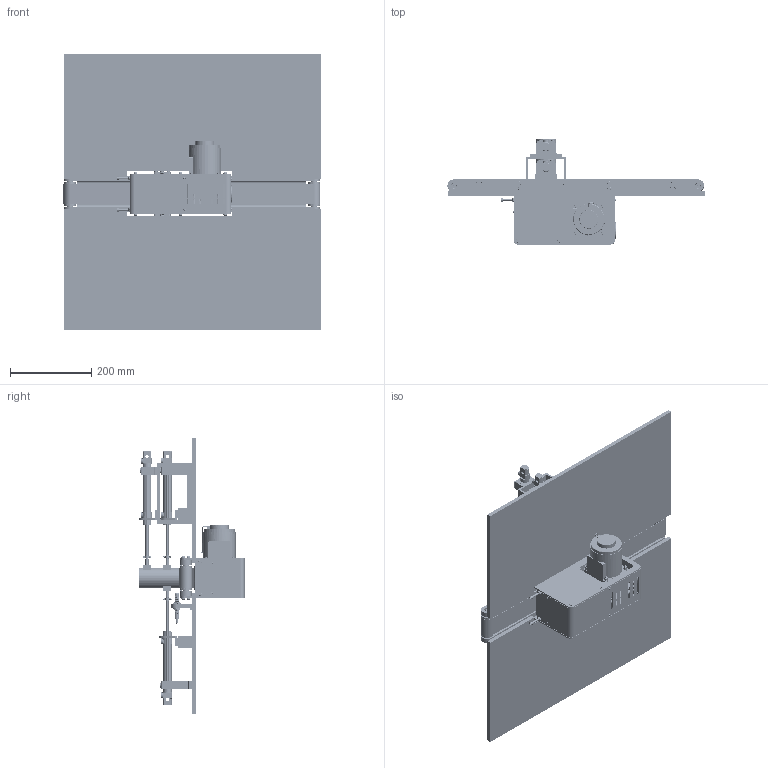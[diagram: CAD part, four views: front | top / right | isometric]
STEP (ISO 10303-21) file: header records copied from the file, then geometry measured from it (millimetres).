
FILE_DESCRIPTION(/* description */ (''),/* implementation_level */ '2;1');
FILE_NAME(/* name */ 'Assieme_ETICHETTATURA.stp',/* time_stamp */ '2024-11-26T21:19:47+01:00',/* author */ ('R5800u'),/* organization */ (''),/* preprocessor_version */ 'ST-DEVELOPER v20',/* originating_system */ 'Autodesk Inventor 2025',/* authorisation */ '');
FILE_SCHEMA (('AUTOMOTIVE_DESIGN { 1 0 10303 214 3 1 1 }'));
Products named in the file (52): Assieme_nastro; SVKN-50-600-25-TA220-SCM-12_5-H-C; SVKN-50-600-25_l; SVKN-50-600-25-H_b; SVKN-50-25-TA220-SCM-12_5-C_mc; SVKN25-TA220-SCM-12_5-C-1; CVS_bolt5-65; MOTOR25_w; MOTOR25_n; CVS__Nut-M5; piano_appoggio_nastro; 1103200080CP/0-0-0-A-0-0; appoggio_cilindro_magazzino; pezzo; piano_lavoro_01; supporto_cilindro_laterale; premi_pezzo_MIR; supporto_cilindro_etichettatura; etichetta_pezzo; LJ12A3-4-Z/AX (Prossimità) (Asse Z); Bullone; Rondella; Parte6; 1103200080CP_0-0-0-A-0-0_MIR1; ISO_6432_TP_DI20-110-HF_MIR1; ISO_6432_TP_DI20-110-80-BR_MIR1; ISO_6432_TP_DI20-110-HR_MIR1; ISO_6432_TP_DI20-110-PR_MIR1; ISO_6432_TP_DI20-11080-R_MIR1; W0950200001-3_0_MIR1; ISO_6432_TP_DI20-110-PF_MIR1; anello_stelo_MIR; barra_circolare_6mm_MIR; appoggio_cilindro_magazzino_MIR1; supporto_cilindro_laterale_MIR1; premi_pezzo_MIR_MIR; blocco_sensore; 1103200080CP/0-0-0-A-0-0_1; ISO_6432_TP_DI20-110-HF; ISO_6432_TP_DI20-110-80-BR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
Assembly tree (109 placements, depth 3):
  Assieme_nastro
    SVKN-50-600-25-TA220-SCM-12_5-H-C
      SVKN-50-600-25_l
      SVKN-50-600-25-H_b
      SVKN-50-25-TA220-SCM-12_5-C_mc
      SVKN25-TA220-SCM-12_5-C-1
      CVS_bolt5-65  x4
      MOTOR25_w  x4
      MOTOR25_n  x4
      CVS__Nut-M5  x16
    piano_appoggio_nastro
    1103200080CP/0-0-0-A-0-0
      ISO_6432_TP_DI20-110-HF
      ISO_6432_TP_DI20-110-80-BR
      ISO_6432_TP_DI20-110-HR
      ISO_6432_TP_DI20-110-PR
      ISO_6432_TP_DI20-11080-R
      W0950200001-3_0
      ISO_6432_TP_DI20-110-PF
      anello_stelo
      barra_circolare_6mm  x2
      Bush GB/T 18324 C 6 X 8 X 6  x2
      AS 1427 - M2,5 x 8  x2
      AS 1112 - M2,5  Tipo 5  x2
    appoggio_cilindro_magazzino
    pezzo
    piano_lavoro_01
    supporto_cilindro_laterale
    premi_pezzo_MIR
    supporto_cilindro_etichettatura
    etichetta_pezzo
    LJ12A3-4-Z/AX (Prossimità) (Asse Z)
      Bullone  x2
      Rondella  x2
      Parte6
    AS 1420 - 1973 - M5 x 12  x6
    1103200080CP_0-0-0-A-0-0_MIR1
      ISO_6432_TP_DI20-110-HF_MIR1
      ISO_6432_TP_DI20-110-80-BR_MIR1
      ISO_6432_TP_DI20-110-HR_MIR1
      ISO_6432_TP_DI20-110-PR_MIR1
      ISO_6432_TP_DI20-11080-R_MIR1
      W0950200001-3_0_MIR1
      ISO_6432_TP_DI20-110-PF_MIR1
      anello_stelo_MIR
      barra_circolare_6mm_MIR  x2
      Bush GB/T 18324 C 6 X 8 X 6  x2
      AS 1427 - M2,5 x 8  x2
      AS 1112 - M2,5  Tipo 5  x2
    appoggio_cilindro_magazzino_MIR1
    supporto_cilindro_laterale_MIR1
    premi_pezzo_MIR_MIR
    blocco_sensore
    1103200080CP/0-0-0-A-0-0_1
      ISO_6432_TP_DI20-110-HF
      ISO_6432_TP_DI20-110-80-BR
      ISO_6432_TP_DI20-110-HR
      ISO_6432_TP_DI20-110-PR
      ISO_6432_TP_DI20-11080-R
      W0950200001-3_0
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Bounding box: 632.66 x 262.05 x 680 mm (x, y, z)
Volume: 6632408.9 mm3; surface area: 1902232.6 mm2
Topology: 121 solids, 121 shells, 11940 faces, 33547 edges, 22026 vertices
Faces by surface type: plane 6422, bspline 3902, cylinder 988, cone 542, torus 79, sphere 7
Full cylindrical faces by diameter (mm): 0.45 x6, 1.2 x6, 1.946 x6, 2.013 x6, 2.224 x6, 2.5 x10, 2.9 x12, 3.242 x1, 3.5 x2, 3.8 x2, 4.134 x32, 4.98 x1, 5 x44, 5.3 x6, 5.5 x4, 6 x30, 6.5 x6, 6.6 x6, 7.2 x3, 8 x24, 8.376 x3, 8.5 x33, 8.566 x6, 8.6 x2, 9 x6, 9.2 x9, 9.5 x4, 10 x32, 10.6 x1, 10.8 x1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
Entity records: 383918 total; most frequent: CARTESIAN_POINT 115965, ORIENTED_EDGE 60680, DIRECTION 47459, EDGE_CURVE 30340, VERTEX_POINT 20067, LINE 18523, VECTOR 18523, AXIS2_PLACEMENT_3D 14468
